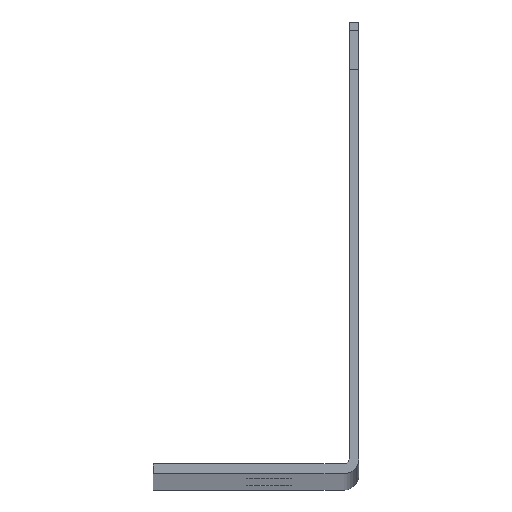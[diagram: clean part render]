
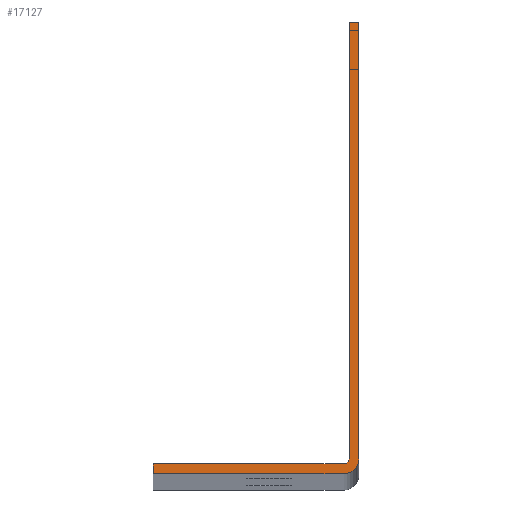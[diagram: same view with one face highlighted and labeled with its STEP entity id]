
A CAD part, top view. The second image highlights one B-rep face of the part: STEP entity #17127.
In plain terms, the highlighted planar face has unit normal (0, 0, 1).
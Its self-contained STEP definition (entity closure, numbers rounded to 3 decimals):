
#203=CIRCLE('',#18020,3.632);
#204=CIRCLE('',#18021,1.219);
#1085=ORIENTED_EDGE('',*,*,#6004,.F.);
#1086=ORIENTED_EDGE('',*,*,#6005,.F.);
#1087=ORIENTED_EDGE('',*,*,#5909,.F.);
#1088=ORIENTED_EDGE('',*,*,#6006,.T.);
#1089=ORIENTED_EDGE('',*,*,#6007,.T.);
#1090=ORIENTED_EDGE('',*,*,#6008,.T.);
#1091=ORIENTED_EDGE('',*,*,#6009,.T.);
#1092=ORIENTED_EDGE('',*,*,#6010,.T.);
#5909=EDGE_CURVE('',#8373,#8374,#9981,.T.);
#6004=EDGE_CURVE('',#8459,#8460,#10030,.T.);
#6005=EDGE_CURVE('',#8374,#8459,#203,.T.);
#6006=EDGE_CURVE('',#8373,#8461,#10031,.T.);
#6007=EDGE_CURVE('',#8461,#8462,#10032,.T.);
#6008=EDGE_CURVE('',#8462,#8463,#204,.F.);
#6009=EDGE_CURVE('',#8463,#8464,#10033,.T.);
#6010=EDGE_CURVE('',#8464,#8460,#10034,.T.);
#8373=VERTEX_POINT('',#24601);
#8374=VERTEX_POINT('',#24602);
#8459=VERTEX_POINT('',#24854);
#8460=VERTEX_POINT('',#24855);
#8461=VERTEX_POINT('',#24858);
#8462=VERTEX_POINT('',#24860);
#8463=VERTEX_POINT('',#24862);
#8464=VERTEX_POINT('',#24864);
#9981=LINE('',#24600,#12273);
#10030=LINE('',#24853,#12322);
#10031=LINE('',#24857,#12323);
#10032=LINE('',#24859,#12324);
#10033=LINE('',#24863,#12325);
#10034=LINE('',#24865,#12326);
#12273=VECTOR('',#19613,1000.);
#12322=VECTOR('',#19726,1000.);
#12323=VECTOR('',#19729,1000.);
#12324=VECTOR('',#19730,1000.);
#12325=VECTOR('',#19733,1000.);
#12326=VECTOR('',#19734,1000.);
#14069=EDGE_LOOP('',(#1085,#1086,#1087,#1088,#1089,#1090,#1091,#1092));
#15299=FACE_BOUND('',#14069,.T.);
#16331=PLANE('',#18019);
#17127=ADVANCED_FACE('',(#15299),#16331,.T.);
#18019=AXIS2_PLACEMENT_3D('',#24852,#19724,#19725);
#18020=AXIS2_PLACEMENT_3D('',#24856,#19727,#19728);
#18021=AXIS2_PLACEMENT_3D('',#24861,#19731,#19732);
#19613=DIRECTION('',(0.,-1.,0.));
#19724=DIRECTION('',(0.,0.,1.));
#19725=DIRECTION('',(1.,0.,0.));
#19726=DIRECTION('',(-1.,0.,0.));
#19727=DIRECTION('',(0.,0.,-1.));
#19728=DIRECTION('',(0.,1.,0.));
#19729=DIRECTION('',(-1.,0.,0.));
#19730=DIRECTION('',(0.,-1.,0.));
#19731=DIRECTION('',(0.,0.,1.));
#19732=DIRECTION('',(1.,0.,0.));
#19733=DIRECTION('',(-1.,0.,0.));
#19734=DIRECTION('',(0.,-1.,0.));
#24600=CARTESIAN_POINT('',(25.4,2.171,1156.081));
#24601=CARTESIAN_POINT('',(25.4,111.608,1156.081));
#24602=CARTESIAN_POINT('',(25.4,3.632,1156.081));
#24852=CARTESIAN_POINT('',(25.4,2.413,1156.081));
#24853=CARTESIAN_POINT('',(25.4,0.,1156.081));
#24854=CARTESIAN_POINT('',(21.768,0.,1156.081));
#24855=CARTESIAN_POINT('',(-25.4,0.,1156.081));
#24856=CARTESIAN_POINT('',(21.768,3.632,1156.081));
#24857=CARTESIAN_POINT('',(25.4,111.608,1156.081));
#24858=CARTESIAN_POINT('',(22.987,111.608,1156.081));
#24859=CARTESIAN_POINT('',(22.987,2.171,1156.081));
#24860=CARTESIAN_POINT('',(22.987,3.632,1156.081));
#24861=CARTESIAN_POINT('',(21.768,3.632,1156.081));
#24862=CARTESIAN_POINT('',(21.768,2.413,1156.081));
#24863=CARTESIAN_POINT('',(25.4,2.413,1156.081));
#24864=CARTESIAN_POINT('',(-25.4,2.413,1156.081));
#24865=CARTESIAN_POINT('',(-25.4,2.413,1156.081));
